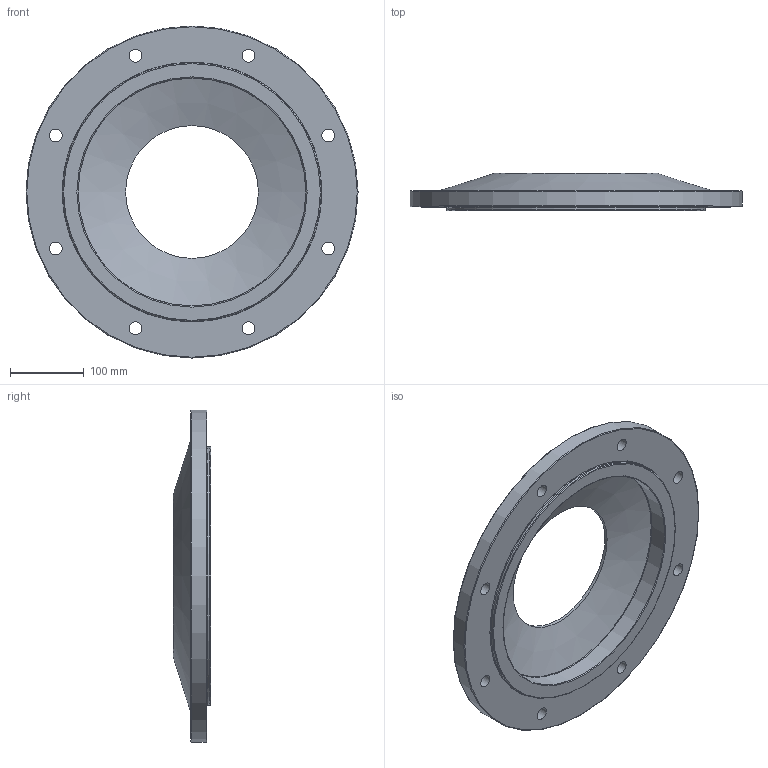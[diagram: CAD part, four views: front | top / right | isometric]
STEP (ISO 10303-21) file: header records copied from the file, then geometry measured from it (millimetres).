
FILE_DESCRIPTION((''),'2;1');
FILE_NAME('D:\PAWEŁ\ZLECENIA\DualSystem\001 Modele\DKAB90_\DK_90_STEP\AF_F_90.stp','2011-11-26T10:02:33',('Pawe'),(''),'Autodesk Inventor 2009','Autodesk Inventor 2009','');
FILE_SCHEMA(('AUTOMOTIVE_DESIGN { 1 0 10303 214 1 1 1 1 }'));
Length unit declared in the file: millimetre
Products named in the file (1): AF_F_90
Bounding box: 450 x 50.5 x 450 mm (x, y, z)
Volume: 2531582.2 mm3; surface area: 340189.1 mm2
Topology: 1 solids, 1 shells, 25 faces, 62 edges, 41 vertices
Faces by surface type: bspline 11, plane 4, torus 4, cylinder 4, cone 2
Full cylindrical faces by diameter (mm): 180 x1, 310 x1, 350 x1, 450 x1
Entity records: 852 total; most frequent: CARTESIAN_POINT 342, DIRECTION 96, ORIENTED_EDGE 66, EDGE_LOOP 66, AXIS2_PLACEMENT_3D 48, FACE_BOUND 41, VERTEX_POINT 33, CIRCLE 33
